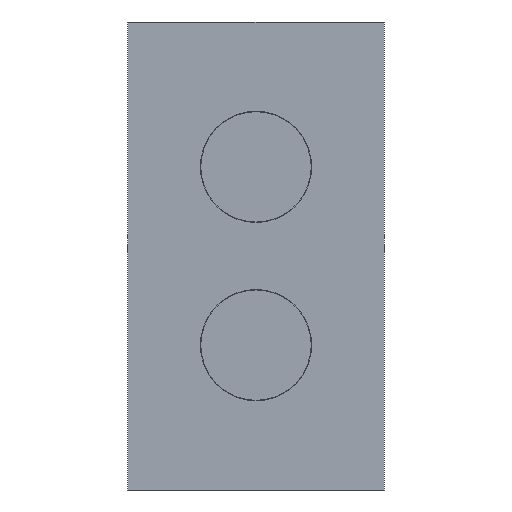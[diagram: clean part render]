
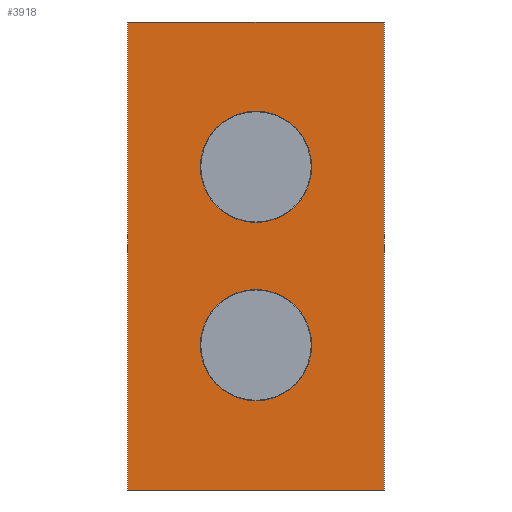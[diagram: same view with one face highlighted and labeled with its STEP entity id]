
A CAD part, front view. The second image highlights one B-rep face of the part: STEP entity #3918.
In plain terms, the highlighted planar face has unit normal (0, -1, 0).
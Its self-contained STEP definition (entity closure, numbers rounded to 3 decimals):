
#893=DIRECTION('',(0.,0.,1.));
#894=VECTOR('',#893,210.);
#895=CARTESIAN_POINT('',(-57.5,71.2,-145.));
#896=LINE('',#895,#894);
#897=DIRECTION('',(1.,0.,0.));
#898=VECTOR('',#897,115.);
#899=CARTESIAN_POINT('',(-57.5,71.2,65.));
#900=LINE('',#899,#898);
#901=DIRECTION('',(0.,0.,-1.));
#902=VECTOR('',#901,210.);
#903=CARTESIAN_POINT('',(57.5,71.2,65.));
#904=LINE('',#903,#902);
#905=DIRECTION('',(-1.,0.,0.));
#906=VECTOR('',#905,115.);
#907=CARTESIAN_POINT('',(57.5,71.2,-145.));
#908=LINE('',#907,#906);
#909=CARTESIAN_POINT('',(0.,71.2,0.));
#910=DIRECTION('',(0.,-1.,0.));
#911=DIRECTION('',(0.,0.,1.));
#912=AXIS2_PLACEMENT_3D('',#909,#910,#911);
#914=CARTESIAN_POINT('',(0.,71.2,0.));
#915=DIRECTION('',(0.,-1.,0.));
#916=DIRECTION('',(0.,0.,-1.));
#917=AXIS2_PLACEMENT_3D('',#914,#915,#916);
#919=CARTESIAN_POINT('',(0.,71.2,-80.));
#920=DIRECTION('',(0.,-1.,0.));
#921=DIRECTION('',(0.,0.,1.));
#922=AXIS2_PLACEMENT_3D('',#919,#920,#921);
#924=CARTESIAN_POINT('',(0.,71.2,-80.));
#925=DIRECTION('',(0.,-1.,0.));
#926=DIRECTION('',(0.,0.,-1.));
#927=AXIS2_PLACEMENT_3D('',#924,#925,#926);
#2918=CARTESIAN_POINT('',(-57.5,71.2,-145.));
#2919=CARTESIAN_POINT('',(-57.5,71.2,65.));
#2920=VERTEX_POINT('',#2918);
#2921=VERTEX_POINT('',#2919);
#2922=CARTESIAN_POINT('',(57.5,71.2,65.));
#2923=CARTESIAN_POINT('',(57.5,71.2,-145.));
#2924=VERTEX_POINT('',#2922);
#2925=VERTEX_POINT('',#2923);
#3424=CARTESIAN_POINT('',(0.,71.2,24.775));
#3425=CARTESIAN_POINT('',(0.,71.2,-24.775));
#3426=VERTEX_POINT('',#3424);
#3427=VERTEX_POINT('',#3425);
#3432=CARTESIAN_POINT('',(0.,71.2,-55.225));
#3433=CARTESIAN_POINT('',(0.,71.2,-104.775));
#3434=VERTEX_POINT('',#3432);
#3435=VERTEX_POINT('',#3433);
#3893=CARTESIAN_POINT('',(0.,71.2,-40.));
#3894=DIRECTION('',(0.,1.,0.));
#3895=DIRECTION('',(1.,0.,0.));
#3896=AXIS2_PLACEMENT_3D('',#3893,#3894,#3895);
#3897=PLANE('',#3896);
#3898=ORIENTED_EDGE('',*,*,#3884,.T.);
#3900=ORIENTED_EDGE('',*,*,#3899,.T.);
#3902=ORIENTED_EDGE('',*,*,#3901,.T.);
#3903=ORIENTED_EDGE('',*,*,#3872,.T.);
#3904=EDGE_LOOP('',(#3898,#3900,#3902,#3903));
#3905=FACE_OUTER_BOUND('',#3904,.F.);
#3907=ORIENTED_EDGE('',*,*,#3906,.T.);
#3909=ORIENTED_EDGE('',*,*,#3908,.T.);
#3910=EDGE_LOOP('',(#3907,#3909));
#3911=FACE_BOUND('',#3910,.F.);
#3913=ORIENTED_EDGE('',*,*,#3912,.T.);
#3915=ORIENTED_EDGE('',*,*,#3914,.T.);
#3916=EDGE_LOOP('',(#3913,#3915));
#3917=FACE_BOUND('',#3916,.F.);
#3918=ADVANCED_FACE('',(#3905,#3911,#3917),#3897,.F.);
#913=CIRCLE('',#912,24.775);
#918=CIRCLE('',#917,24.775);
#923=CIRCLE('',#922,24.775);
#928=CIRCLE('',#927,24.775);
#3872=EDGE_CURVE('',#2925,#2920,#908,.T.);
#3884=EDGE_CURVE('',#2920,#2921,#896,.T.);
#3899=EDGE_CURVE('',#2921,#2924,#900,.T.);
#3901=EDGE_CURVE('',#2924,#2925,#904,.T.);
#3906=EDGE_CURVE('',#3426,#3427,#913,.T.);
#3908=EDGE_CURVE('',#3427,#3426,#918,.T.);
#3912=EDGE_CURVE('',#3434,#3435,#923,.T.);
#3914=EDGE_CURVE('',#3435,#3434,#928,.T.);
